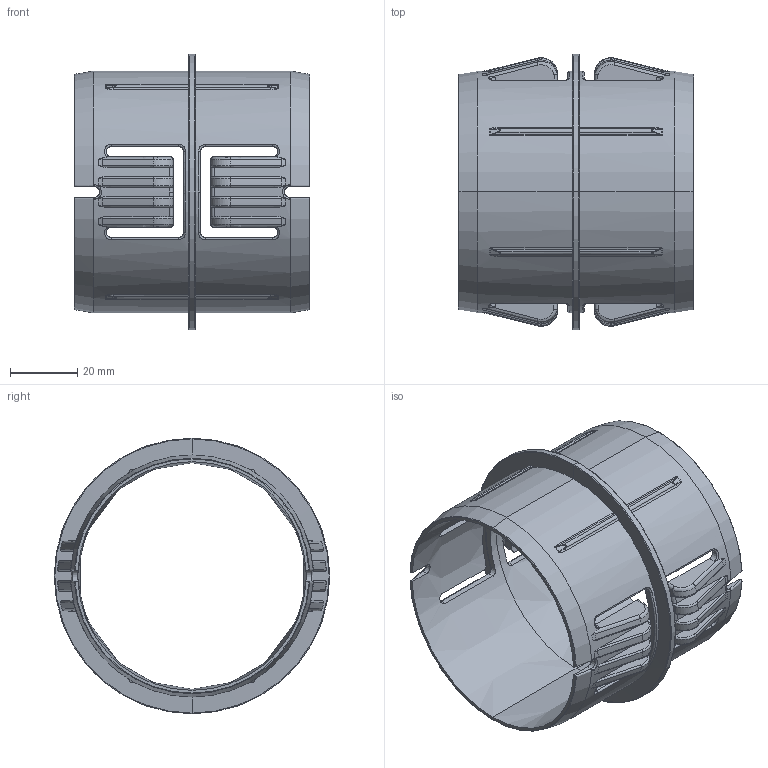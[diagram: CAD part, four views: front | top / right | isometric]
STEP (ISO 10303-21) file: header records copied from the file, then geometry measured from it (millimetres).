
FILE_DESCRIPTION (( 'STEP AP214' ), '1' );
FILE_NAME ('KP_CC-90.step', '2023-03-06T07:42:37', ( '' ), ( '' ), 'SwSTEP 2.0', 'SolidWorks 2022', '' );
FILE_SCHEMA (( 'AUTOMOTIVE_DESIGN' ));
Length unit declared in the file: millimetre
Products named in the file (1): KP_CC-90
Bounding box: 70 x 82 x 82 mm (x, y, z)
Volume: 34879.6 mm3; surface area: 34452.8 mm2
Topology: 1 solids, 1 shells, 426 faces, 1104 edges, 678 vertices
Faces by surface type: bspline 184, plane 68, cylinder 62, cone 60, torus 52
Entity records: 21516 total; most frequent: CARTESIAN_POINT 12925, ORIENTED_EDGE 2208, DIRECTION 1252, EDGE_CURVE 1104, VERTEX_POINT 678, B_SPLINE_CURVE_WITH_KNOTS 580, AXIS2_PLACEMENT_3D 533, EDGE_LOOP 434
